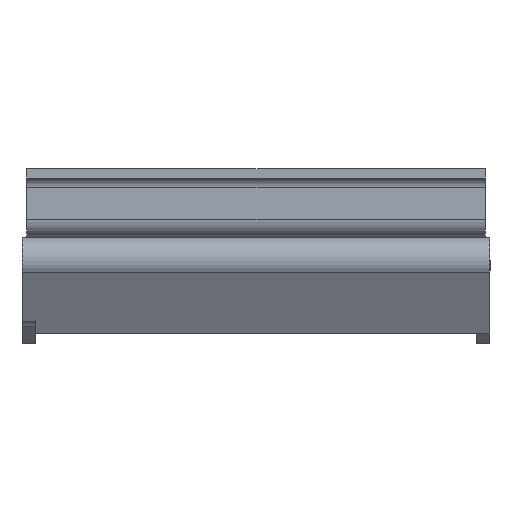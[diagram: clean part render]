
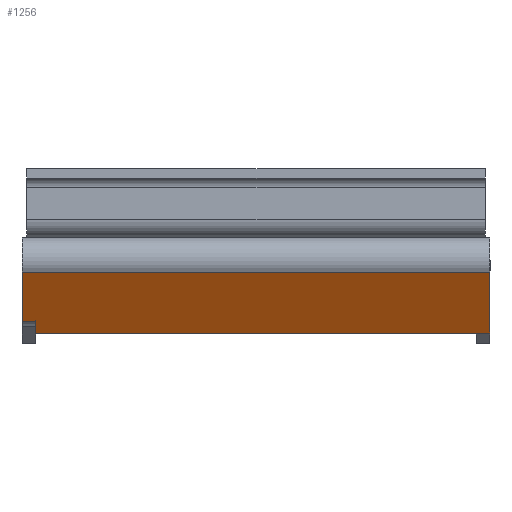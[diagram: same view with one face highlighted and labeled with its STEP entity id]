
A CAD part, left-side view. The second image highlights one B-rep face of the part: STEP entity #1256.
In plain terms, the highlighted planar face has unit normal (-0.866, 0, -0.5).
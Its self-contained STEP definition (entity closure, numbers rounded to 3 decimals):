
#799=CARTESIAN_POINT('',(-58.69,24.,-7.593));
#800=VERTEX_POINT('',#799);
#808=CARTESIAN_POINT('',(-58.69,25.5,-7.593));
#809=VERTEX_POINT('',#808);
#810=CARTESIAN_POINT('',(-58.69,25.5,-7.593));
#811=DIRECTION('',(0.0,-1.0,0.0));
#812=VECTOR('',#811,1.5);
#813=LINE('',#810,#812);
#814=EDGE_CURVE('',#809,#800,#813,.T.);
#831=CARTESIAN_POINT('',(-57.94,24.,-8.892));
#832=VERTEX_POINT('',#831);
#839=CARTESIAN_POINT('',(-58.69,24.,-7.593));
#840=DIRECTION('',(0.5,0.0,-0.866));
#841=VECTOR('',#840,1.5);
#842=LINE('',#839,#841);
#843=EDGE_CURVE('',#800,#832,#842,.T.);
#855=CARTESIAN_POINT('',(-61.775,25.5,-2.25));
#856=VERTEX_POINT('',#855);
#857=CARTESIAN_POINT('',(-61.775,25.5,-2.25));
#858=DIRECTION('',(0.5,0.0,-0.866));
#859=VECTOR('',#858,6.17);
#860=LINE('',#857,#859);
#861=EDGE_CURVE('',#856,#809,#860,.T.);
#1224=CARTESIAN_POINT('',(-62.833,-25.5,-0.417));
#1225=DIRECTION('',(-0.866,0.0,-0.5));
#1226=DIRECTION('',(-0.5,0.0,0.866));
#1227=AXIS2_PLACEMENT_3D('',#1224,#1225,#1226);
#1228=PLANE('',#1227);
#1229=ORIENTED_EDGE('',*,*,#843,.T.);
#1230=CARTESIAN_POINT('',(-57.94,-25.5,-8.892));
#1231=VERTEX_POINT('',#1230);
#1232=CARTESIAN_POINT('',(-57.94,-25.5,-8.892));
#1233=DIRECTION('',(0.0,1.0,0.0));
#1234=VECTOR('',#1233,49.5);
#1235=LINE('',#1232,#1234);
#1236=EDGE_CURVE('',#1231,#832,#1235,.T.);
#1237=ORIENTED_EDGE('',*,*,#1236,.F.);
#1238=CARTESIAN_POINT('',(-61.775,-25.5,-2.25));
#1239=VERTEX_POINT('',#1238);
#1240=CARTESIAN_POINT('',(-61.775,-25.5,-2.25));
#1241=DIRECTION('',(0.5,0.0,-0.866));
#1242=VECTOR('',#1241,7.67);
#1243=LINE('',#1240,#1242);
#1244=EDGE_CURVE('',#1239,#1231,#1243,.T.);
#1245=ORIENTED_EDGE('',*,*,#1244,.F.);
#1246=CARTESIAN_POINT('',(-61.775,25.5,-2.25));
#1247=DIRECTION('',(0.0,-1.0,0.0));
#1248=VECTOR('',#1247,51.);
#1249=LINE('',#1246,#1248);
#1250=EDGE_CURVE('',#856,#1239,#1249,.T.);
#1251=ORIENTED_EDGE('',*,*,#1250,.F.);
#1252=ORIENTED_EDGE('',*,*,#861,.T.);
#1253=ORIENTED_EDGE('',*,*,#814,.T.);
#1254=EDGE_LOOP('',(#1229,#1237,#1245,#1251,#1252,#1253));
#1255=FACE_OUTER_BOUND('',#1254,.T.);
#1256=ADVANCED_FACE('',(#1255),#1228,.T.);
